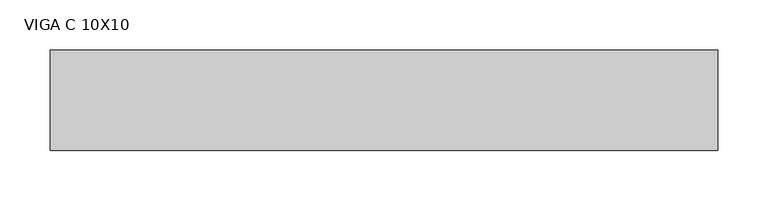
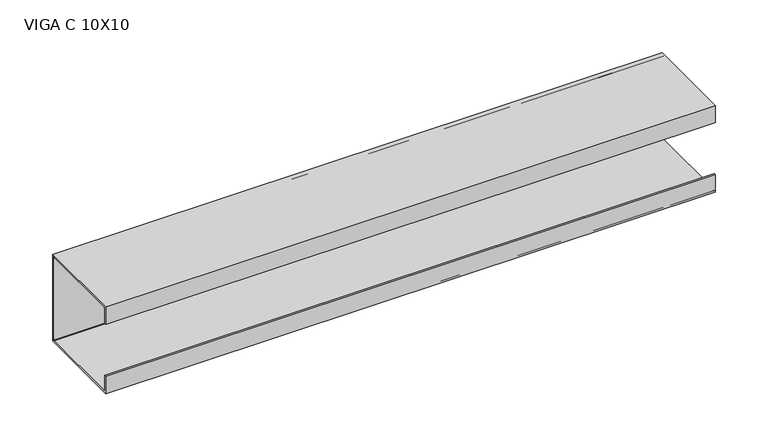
"""IFC4 building model written with IfcOpenShell, lengths in millimetres: beam geometry, VIGA PERFIL C AÇO : VIGA C 10X10."""

from ifc_helpers import new_model, si_unit, point, frame, frame_2d, origin, place, context, project, spatial, polyline, circle_curve, trimmed, segment, composite_curve, outline, extrude, source, transform, mapped, element, save


def viga_c_10x10_4ffb476a(model_context):
    return source(origin(), model_context, "Body", "SweptSolid", [
        extrude(outline(polyline([(9.2, -50.0), (-90.8, -50.0), (-90.8, -30.0), (-88.9, -30.0), (-88.9, -48.1), (7.3, -48.1), (7.3, 48.1), (-88.9, 48.1), (-88.9, 30.0), (-90.8, 30.0), (-90.8, 50.0), (9.2, 50.0), (9.2, -50.0)])), frame((-339.5, 0.0, 0.0), z_axis=(1.0, 0.0, 0.0), x_axis=(0.0, 1.0, 0.0)), (0.0, 0.0, 1.0), 664.0),
        extrude(outline(composite_curve([segment(trimmed(circle_curve(frame_2d((5.4, -46.2)), 3.8), [point((9.2, -46.2))], [point((5.4, -50.0))], False, "CARTESIAN"), True, "CONTINUOUS"), segment(polyline([(5.4, -50.0), (-87.0, -50.0)]), True, "CONTINUOUS"), segment(trimmed(circle_curve(frame_2d((-87.0, -46.2)), 3.8), [point((-87.0, -50.0))], [point((-90.8, -46.2))], False, "CARTESIAN"), True, "CONTINUOUS"), segment(polyline([(-90.8, -46.2), (-90.8, -30.0), (-88.9, -30.0), (-88.9, -46.2)]), True, "CONTINUOUS"), segment(trimmed(circle_curve(frame_2d((-87.0, -46.2)), 1.9), [point((-88.9, -46.2))], [point((-87.0, -48.1))], True, "CARTESIAN"), True, "CONTINUOUS"), segment(polyline([(-87.0, -48.1), (5.4, -48.1)]), True, "CONTINUOUS"), segment(trimmed(circle_curve(frame_2d((5.4, -46.2)), 1.9), [point((5.4, -48.1))], [point((7.3, -46.2))], True, "CARTESIAN"), True, "CONTINUOUS"), segment(polyline([(7.3, -46.2), (7.3, 46.2)]), True, "CONTINUOUS"), segment(trimmed(circle_curve(frame_2d((5.4, 46.2)), 1.9), [point((7.3, 46.2))], [point((5.4, 48.1))], True, "CARTESIAN"), True, "CONTINUOUS"), segment(polyline([(5.4, 48.1), (-87.0, 48.1)]), True, "CONTINUOUS"), segment(trimmed(circle_curve(frame_2d((-87.0, 46.2)), 1.9), [point((-87.0, 48.1))], [point((-88.9, 46.2))], True, "CARTESIAN"), True, "CONTINUOUS"), segment(polyline([(-88.9, 46.2), (-88.9, 30.0), (-90.8, 30.0), (-90.8, 46.2)]), True, "CONTINUOUS"), segment(trimmed(circle_curve(frame_2d((-87.0, 46.2)), 3.8), [point((-90.8, 46.2))], [point((-87.0, 50.0))], False, "CARTESIAN"), True, "CONTINUOUS"), segment(polyline([(-87.0, 50.0), (5.4, 50.0)]), True, "CONTINUOUS"), segment(trimmed(circle_curve(frame_2d((5.4, 46.2)), 3.8), [point((5.4, 50.0))], [point((9.2, 46.2))], False, "CARTESIAN"), True, "CONTINUOUS"), segment(polyline([(9.2, 46.2), (9.2, -46.2)]), True, "CONTINUOUS")], self_intersect=False)), frame((-339.5, 0.0, 0.0), z_axis=(1.0, 0.0, 0.0), x_axis=(0.0, 1.0, 0.0)), (0.0, 0.0, 1.0), 664.0),
    ])


if __name__ == "__main__":
    model = new_model("IFC4")
    model_context = context("Model", 3, world=origin())
    ifc_project = project(units=[si_unit("LENGTHUNIT", "METRE", prefix="MILLI")], contexts=[model_context])
    site = spatial("IfcSite", under=ifc_project)
    building = spatial("IfcBuilding", under=site)
    placement = place(None, origin())
    viga_c_10x10_shape = viga_c_10x10_4ffb476a(model_context)
    element("IfcBeam", 1, ObjectType="VIGA PERFIL C AÇO : VIGA C 10X10", at=placement, inside=building, context=model_context, shape_type="MappedRepresentation", body=[
        mapped(viga_c_10x10_shape, transform((0.0, 0.0, 0.0), x_axis=(1.0, 0.0, 0.0), y_axis=(0.0, 1.0, 0.0), z_axis=(0.0, 0.0, 1.0))),
    ])
    save(model, "model.ifc")
